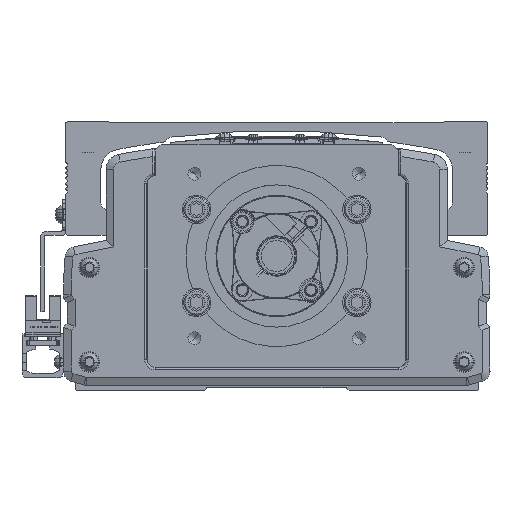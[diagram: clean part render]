
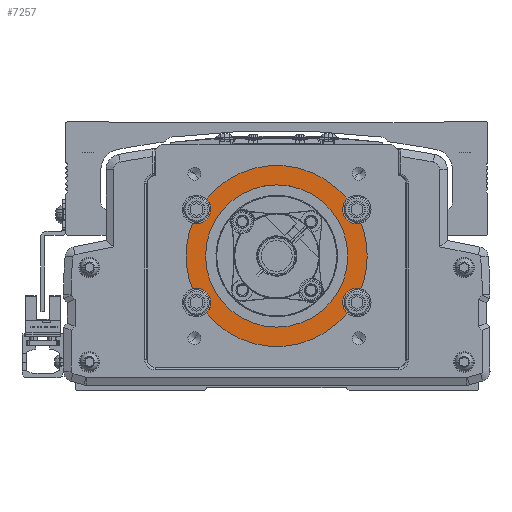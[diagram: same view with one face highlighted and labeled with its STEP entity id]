
A CAD part, front view. The second image highlights one B-rep face of the part: STEP entity #7257.
In plain terms, the highlighted planar face has unit normal (0, -1, 0).
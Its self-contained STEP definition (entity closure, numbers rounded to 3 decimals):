
#7257=ADVANCED_FACE('',(#16601,#16602),#16603,.F.);
#16601=FACE_OUTER_BOUND('',#29527,.T.);
#16602=FACE_BOUND('',#29528,.T.);
#16603=PLANE('',#29529);
#29527=EDGE_LOOP('',(#51542,#51543,#51544,#51545,#51546,#51547,#51548,#51549,#51550,#51551,#51552,#51553,#51554,#51555));
#29528=EDGE_LOOP('',(#51556,#51557));
#29529=AXIS2_PLACEMENT_3D('',#51558,#51559,#51560);
#51542=ORIENTED_EDGE('',*,*,#77117,.F.);
#51543=ORIENTED_EDGE('',*,*,#74686,.T.);
#51544=ORIENTED_EDGE('',*,*,#80569,.T.);
#51545=ORIENTED_EDGE('',*,*,#80570,.F.);
#51546=ORIENTED_EDGE('',*,*,#77782,.F.);
#51547=ORIENTED_EDGE('',*,*,#80571,.T.);
#51548=ORIENTED_EDGE('',*,*,#80572,.F.);
#51549=ORIENTED_EDGE('',*,*,#80573,.F.);
#51550=ORIENTED_EDGE('',*,*,#80574,.T.);
#51551=ORIENTED_EDGE('',*,*,#80575,.T.);
#51552=ORIENTED_EDGE('',*,*,#80576,.F.);
#51553=ORIENTED_EDGE('',*,*,#75181,.F.);
#51554=ORIENTED_EDGE('',*,*,#80577,.T.);
#51555=ORIENTED_EDGE('',*,*,#80578,.F.);
#51556=ORIENTED_EDGE('',*,*,#80579,.F.);
#51557=ORIENTED_EDGE('',*,*,#80580,.F.);
#51558=CARTESIAN_POINT('',(-600.,-546.778,0.));
#51559=DIRECTION('',(0.,1.0,0.));
#51560=DIRECTION('',(-1.0,0.,0.));
#74686=EDGE_CURVE('',#89050,#89047,#89051,.T.);
#75181=EDGE_CURVE('',#89920,#89922,#89923,.T.);
#77117=EDGE_CURVE('',#89050,#93252,#93253,.T.);
#77782=EDGE_CURVE('',#94368,#94370,#94371,.T.);
#80569=EDGE_CURVE('',#89047,#98703,#98704,.T.);
#80570=EDGE_CURVE('',#94370,#98703,#98705,.T.);
#80571=EDGE_CURVE('',#94368,#98706,#98707,.T.);
#80572=EDGE_CURVE('',#98708,#98706,#98709,.T.);
#80573=EDGE_CURVE('',#98710,#98708,#98711,.T.);
#80574=EDGE_CURVE('',#98710,#98712,#98713,.T.);
#80575=EDGE_CURVE('',#98712,#98714,#98715,.T.);
#80576=EDGE_CURVE('',#89922,#98714,#98716,.T.);
#80577=EDGE_CURVE('',#89920,#98717,#98718,.T.);
#80578=EDGE_CURVE('',#93252,#98717,#98719,.T.);
#80579=EDGE_CURVE('',#98720,#98721,#98722,.T.);
#80580=EDGE_CURVE('',#98721,#98720,#98723,.T.);
#89047=VERTEX_POINT('',#109704);
#89050=VERTEX_POINT('',#109708);
#89051=CIRCLE('',#109709,35.0);
#89920=VERTEX_POINT('',#110922);
#89922=VERTEX_POINT('',#110925);
#89923=CIRCLE('',#110926,5.5);
#93252=VERTEX_POINT('',#115827);
#93253=CIRCLE('',#115828,5.5);
#94368=VERTEX_POINT('',#117638);
#94370=VERTEX_POINT('',#117641);
#94371=CIRCLE('',#117642,5.5);
#98703=VERTEX_POINT('',#123983);
#98704=CIRCLE('',#123984,35.0);
#98705=CIRCLE('',#123985,5.5);
#98706=VERTEX_POINT('',#123986);
#98707=CIRCLE('',#123987,35.0);
#98708=VERTEX_POINT('',#123988);
#98709=CIRCLE('',#123989,5.5);
#98710=VERTEX_POINT('',#123990);
#98711=CIRCLE('',#123991,5.5);
#98712=VERTEX_POINT('',#123992);
#98713=CIRCLE('',#123993,35.0);
#98714=VERTEX_POINT('',#123994);
#98715=CIRCLE('',#123995,35.0);
#98716=CIRCLE('',#123996,5.5);
#98717=VERTEX_POINT('',#123997);
#98718=CIRCLE('',#123998,35.0);
#98719=CIRCLE('',#123999,5.5);
#98720=VERTEX_POINT('',#124000);
#98721=VERTEX_POINT('',#124001);
#98722=CIRCLE('',#124002,27.5);
#98723=CIRCLE('',#124003,27.5);
#109704=CARTESIAN_POINT('',(-635.,-546.778,0.));
#109708=CARTESIAN_POINT('',(-632.6,-546.778,12.738));
#109709=AXIS2_PLACEMENT_3D('',#137520,#137521,#137522);
#110922=CARTESIAN_POINT('',(-572.777,-546.778,21.998));
#110925=CARTESIAN_POINT('',(-574.5,-546.778,18.));
#110926=AXIS2_PLACEMENT_3D('',#138218,#138219,#138220);
#115827=CARTESIAN_POINT('',(-625.5,-546.778,18.));
#115828=AXIS2_PLACEMENT_3D('',#140991,#140992,#140993);
#117638=CARTESIAN_POINT('',(-627.223,-546.778,-21.998));
#117641=CARTESIAN_POINT('',(-625.5,-546.778,-18.));
#117642=AXIS2_PLACEMENT_3D('',#141866,#141867,#141868);
#123983=CARTESIAN_POINT('',(-632.6,-546.778,-12.738));
#123984=AXIS2_PLACEMENT_3D('',#145553,#145554,#145555);
#123985=AXIS2_PLACEMENT_3D('',#145556,#145557,#145558);
#123986=CARTESIAN_POINT('',(-572.777,-546.778,-21.998));
#123987=AXIS2_PLACEMENT_3D('',#145559,#145560,#145561);
#123988=CARTESIAN_POINT('',(-574.5,-546.778,-18.));
#123989=AXIS2_PLACEMENT_3D('',#145562,#145563,#145564);
#123990=CARTESIAN_POINT('',(-567.4,-546.778,-12.738));
#123991=AXIS2_PLACEMENT_3D('',#145565,#145566,#145567);
#123992=CARTESIAN_POINT('',(-565.,-546.778,0.));
#123993=AXIS2_PLACEMENT_3D('',#145568,#145569,#145570);
#123994=CARTESIAN_POINT('',(-567.4,-546.778,12.738));
#123995=AXIS2_PLACEMENT_3D('',#145571,#145572,#145573);
#123996=AXIS2_PLACEMENT_3D('',#145574,#145575,#145576);
#123997=CARTESIAN_POINT('',(-627.223,-546.778,21.998));
#123998=AXIS2_PLACEMENT_3D('',#145577,#145578,#145579);
#123999=AXIS2_PLACEMENT_3D('',#145580,#145581,#145582);
#124000=CARTESIAN_POINT('',(-572.5,-546.778,0.));
#124001=CARTESIAN_POINT('',(-627.5,-546.778,0.));
#124002=AXIS2_PLACEMENT_3D('',#145583,#145584,#145585);
#124003=AXIS2_PLACEMENT_3D('',#145586,#145587,#145588);
#137520=CARTESIAN_POINT('',(-600.,-546.778,0.));
#137521=DIRECTION('',(0.,-1.0,0.));
#137522=DIRECTION('',(-1.0,0.,0.));
#138218=CARTESIAN_POINT('',(-569.,-546.778,18.));
#138219=DIRECTION('',(0.,-1.0,0.));
#138220=DIRECTION('',(1.0,0.,0.));
#140991=CARTESIAN_POINT('',(-631.,-546.778,18.));
#140992=DIRECTION('',(0.,-1.0,0.));
#140993=DIRECTION('',(-1.0,0.,0.));
#141866=CARTESIAN_POINT('',(-631.,-546.778,-18.));
#141867=DIRECTION('',(0.,-1.0,0.));
#141868=DIRECTION('',(-1.0,0.,0.));
#145553=CARTESIAN_POINT('',(-600.,-546.778,0.));
#145554=DIRECTION('',(0.,-1.0,0.));
#145555=DIRECTION('',(-1.0,0.,0.));
#145556=CARTESIAN_POINT('',(-631.,-546.778,-18.));
#145557=DIRECTION('',(0.,-1.0,0.));
#145558=DIRECTION('',(-1.0,0.,0.));
#145559=CARTESIAN_POINT('',(-600.,-546.778,0.));
#145560=DIRECTION('',(0.,-1.0,0.));
#145561=DIRECTION('',(-1.0,0.,0.));
#145562=CARTESIAN_POINT('',(-569.,-546.778,-18.));
#145563=DIRECTION('',(0.,-1.0,0.));
#145564=DIRECTION('',(1.0,0.,0.));
#145565=CARTESIAN_POINT('',(-569.,-546.778,-18.));
#145566=DIRECTION('',(0.,-1.0,0.));
#145567=DIRECTION('',(1.0,0.,0.));
#145568=CARTESIAN_POINT('',(-600.,-546.778,0.));
#145569=DIRECTION('',(0.,-1.0,0.));
#145570=DIRECTION('',(-1.0,0.,0.));
#145571=CARTESIAN_POINT('',(-600.,-546.778,0.));
#145572=DIRECTION('',(0.,-1.0,0.));
#145573=DIRECTION('',(-1.0,0.,0.));
#145574=CARTESIAN_POINT('',(-569.,-546.778,18.));
#145575=DIRECTION('',(0.,-1.0,0.));
#145576=DIRECTION('',(1.0,0.,0.));
#145577=CARTESIAN_POINT('',(-600.,-546.778,0.));
#145578=DIRECTION('',(0.,-1.0,0.));
#145579=DIRECTION('',(-1.0,0.,0.));
#145580=CARTESIAN_POINT('',(-631.,-546.778,18.));
#145581=DIRECTION('',(0.,-1.0,0.));
#145582=DIRECTION('',(-1.0,0.,0.));
#145583=CARTESIAN_POINT('',(-600.,-546.778,0.));
#145584=DIRECTION('',(0.,-1.0,0.));
#145585=DIRECTION('',(-1.0,0.,0.));
#145586=CARTESIAN_POINT('',(-600.,-546.778,0.));
#145587=DIRECTION('',(0.,-1.0,0.));
#145588=DIRECTION('',(-1.0,0.,0.));
